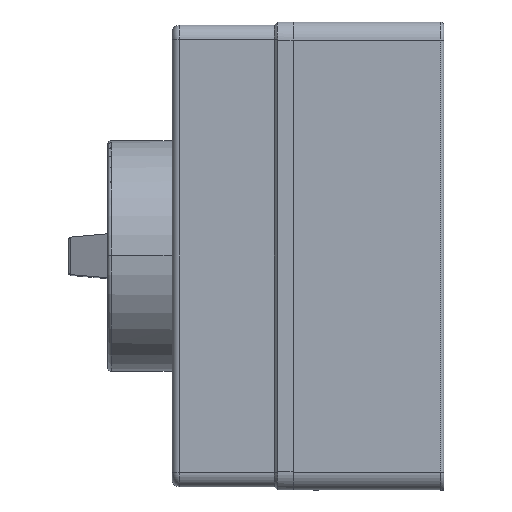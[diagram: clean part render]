
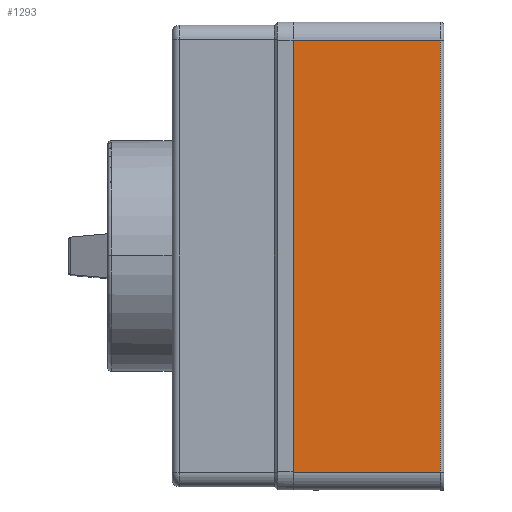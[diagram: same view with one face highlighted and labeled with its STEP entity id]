
A CAD part, left-side view. The second image highlights one B-rep face of the part: STEP entity #1293.
In plain terms, the highlighted planar face has unit normal (-1, 0, 0).
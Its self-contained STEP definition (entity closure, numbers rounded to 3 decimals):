
#81 = CARTESIAN_POINT ( 'NONE',  ( -49., 41.9, 60. ) ) ;
#558 = ORIENTED_EDGE ( 'NONE', *, *, #1226, .T. ) ;
#600 = LINE ( 'NONE', #3082, #3790 ) ;
#662 = DIRECTION ( 'NONE',  ( 0., 0., -1. ) ) ;
#930 = ORIENTED_EDGE ( 'NONE', *, *, #1889, .T. ) ;
#1035 = EDGE_CURVE ( 'NONE', #2704, #4668, #4245, .T. ) ;
#1226 = EDGE_CURVE ( 'NONE', #2480, #1866, #2516, .T. ) ;
#1293 = ADVANCED_FACE ( 'NONE', ( #5128 ), #4205, .F. ) ;
#1493 = DIRECTION ( 'NONE',  ( 0., -1., 0. ) ) ;
#1866 = VERTEX_POINT ( 'NONE', #2622 ) ;
#1889 = EDGE_CURVE ( 'NONE', #1866, #2704, #600, .T. ) ;
#1929 = AXIS2_PLACEMENT_3D ( 'NONE', #2391, #3303, #662 ) ;
#2121 = CARTESIAN_POINT ( 'NONE',  ( -49., 41.9, 60. ) ) ;
#2185 = DIRECTION ( 'NONE',  ( 0., 0., 1. ) ) ;
#2351 = EDGE_CURVE ( 'NONE', #2480, #4668, #2937, .T. ) ;
#2391 = CARTESIAN_POINT ( 'NONE',  ( -49., 41.9, 65. ) ) ;
#2480 = VERTEX_POINT ( 'NONE', #3703 ) ;
#2516 = LINE ( 'NONE', #2817, #4143 ) ;
#2518 = VECTOR ( 'NONE', #2605, 1000. ) ;
#2605 = DIRECTION ( 'NONE',  ( 0., 0., 1. ) ) ;
#2622 = CARTESIAN_POINT ( 'NONE',  ( -49., 1., -60. ) ) ;
#2704 = VERTEX_POINT ( 'NONE', #3400 ) ;
#2817 = CARTESIAN_POINT ( 'NONE',  ( -49., 41.9, -60. ) ) ;
#2937 = LINE ( 'NONE', #4437, #2518 ) ;
#3082 = CARTESIAN_POINT ( 'NONE',  ( -49., 1., 60. ) ) ;
#3303 = DIRECTION ( 'NONE',  ( 1., 0., 0. ) ) ;
#3400 = CARTESIAN_POINT ( 'NONE',  ( -49., 1., 60. ) ) ;
#3703 = CARTESIAN_POINT ( 'NONE',  ( -49., 41.9, -60. ) ) ;
#3760 = VECTOR ( 'NONE', #5409, 1000. ) ;
#3790 = VECTOR ( 'NONE', #2185, 1000. ) ;
#4050 = ORIENTED_EDGE ( 'NONE', *, *, #1035, .T. ) ;
#4143 = VECTOR ( 'NONE', #1493, 1000. ) ;
#4205 = PLANE ( 'NONE',  #1929 ) ;
#4245 = LINE ( 'NONE', #81, #3760 ) ;
#4437 = CARTESIAN_POINT ( 'NONE',  ( -49., 41.9, 65. ) ) ;
#4668 = VERTEX_POINT ( 'NONE', #2121 ) ;
#4678 = ORIENTED_EDGE ( 'NONE', *, *, #2351, .F. ) ;
#5128 = FACE_OUTER_BOUND ( 'NONE', #5437, .T. ) ;
#5409 = DIRECTION ( 'NONE',  ( 0., 1., 0. ) ) ;
#5437 = EDGE_LOOP ( 'NONE', ( #558, #930, #4050, #4678 ) ) ;
